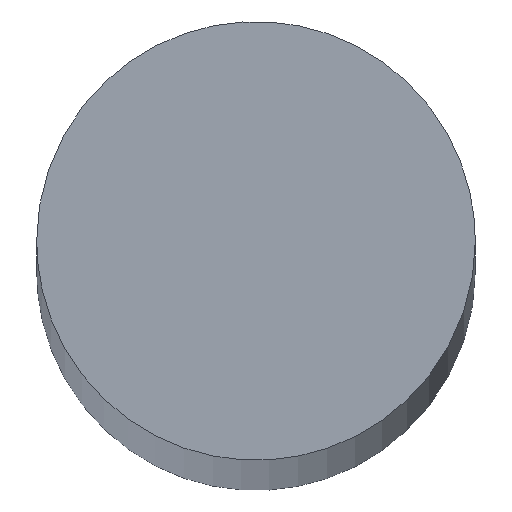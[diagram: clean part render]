
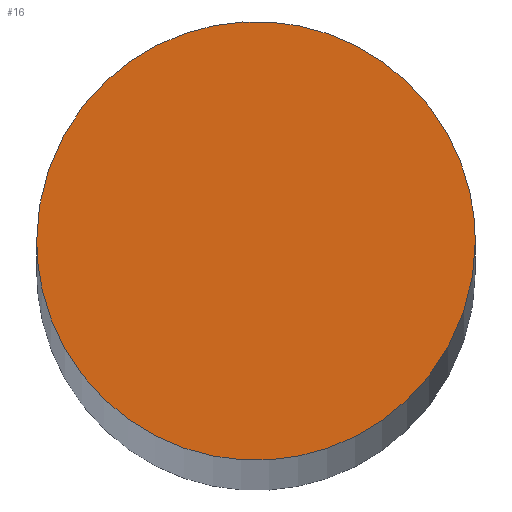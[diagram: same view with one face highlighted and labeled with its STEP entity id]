
A CAD part, top view. The second image highlights one B-rep face of the part: STEP entity #16.
In plain terms, the highlighted planar face has unit normal (0, 0, 1).
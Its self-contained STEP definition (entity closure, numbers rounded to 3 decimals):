
#16=ADVANCED_FACE('',(#20),#55,.T.);
#20=FACE_OUTER_BOUND('',#24,.T.);
#24=EDGE_LOOP('',(#31,#32));
#31=ORIENTED_EDGE('',*,*,#43,.F.);
#32=ORIENTED_EDGE('',*,*,#39,.F.);
#39=EDGE_CURVE('',#51,#53,#45,.T.);
#43=EDGE_CURVE('',#53,#51,#49,.T.);
#45=(
BOUNDED_CURVE()
B_SPLINE_CURVE(2,(#115,#116,#117,#118,#119),.UNSPECIFIED.,.F.,.F.)
B_SPLINE_CURVE_WITH_KNOTS((3,2,3),(-37.699,-28.274,
-18.85),.UNSPECIFIED.)
CURVE()
GEOMETRIC_REPRESENTATION_ITEM()
RATIONAL_B_SPLINE_CURVE((1.,0.707,1.,0.707,1.))
REPRESENTATION_ITEM('')
);
#49=(
BOUNDED_CURVE()
B_SPLINE_CURVE(2,(#129,#130,#131,#132,#133),.UNSPECIFIED.,.F.,.F.)
B_SPLINE_CURVE_WITH_KNOTS((3,2,3),(-18.85,-9.425,
0.),.UNSPECIFIED.)
CURVE()
GEOMETRIC_REPRESENTATION_ITEM()
RATIONAL_B_SPLINE_CURVE((1.,0.707,1.,0.707,1.))
REPRESENTATION_ITEM('')
);
#51=VERTEX_POINT('',#111);
#53=VERTEX_POINT('',#113);
#55=PLANE('',#79);
#79=AXIS2_PLACEMENT_3D('',#99,#84,$);
#84=DIRECTION('',(0.,0.,1.));
#99=CARTESIAN_POINT('',(81.222,170.472,484.787));
#111=CARTESIAN_POINT('',(67.722,177.972,484.787));
#113=CARTESIAN_POINT('',(79.722,177.972,484.787));
#115=CARTESIAN_POINT('',(67.722,177.972,484.787));
#116=CARTESIAN_POINT('',(67.722,183.972,484.787));
#117=CARTESIAN_POINT('',(73.722,183.972,484.787));
#118=CARTESIAN_POINT('',(79.722,183.972,484.787));
#119=CARTESIAN_POINT('',(79.722,177.972,484.787));
#129=CARTESIAN_POINT('',(79.722,177.972,484.787));
#130=CARTESIAN_POINT('',(79.722,171.972,484.787));
#131=CARTESIAN_POINT('',(73.722,171.972,484.787));
#132=CARTESIAN_POINT('',(67.722,171.972,484.787));
#133=CARTESIAN_POINT('',(67.722,177.972,484.787));
